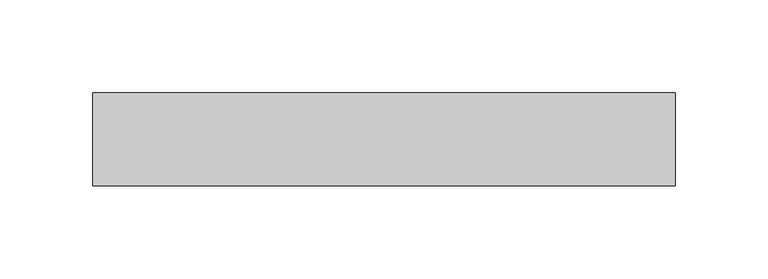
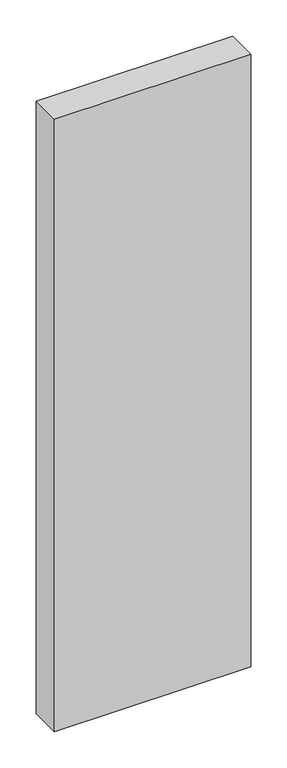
"""IFC4 building model written with IfcOpenShell, lengths in millimetres: plate geometry, Системная панель : Стекло(50мм)."""

import ifcopenshell
import ifcopenshell.guid

model = None  # the IFC model being written
_history = None  # IfcOwnerHistory: only IFC2X3 demands one
_inside = {}  # id of a spatial element -> (the spatial element, [elements in it])
_under = {}  # id of a project, library or spatial element -> (it, [spatial elements below it])
_declared = {}  # id of a project -> (the project, [libraries it declares])
_typed = {}  # id of a type object -> (the type object, [elements of that type])
_made_of = {}  # id of a material, layer set ... -> (it, [elements and type objects made of it])


def new_model(schema):
    """Start an empty IFC model of exactly this schema.

    Asked for "IFC4X3", IfcOpenShell would pick the latest addendum, in which some entities
    have other attributes; the version numbers below select the first issue.
    IFC2X3 requires an IfcOwnerHistory on every rooted entity: one is made here for all.
    """
    global model, _history
    if schema == "IFC4X3":
        model = ifcopenshell.file(schema_version=(4, 3, 0, 0))
    else:
        model = ifcopenshell.file(schema=schema)
    _inside.clear()
    _under.clear()
    _declared.clear()
    _typed.clear()
    _made_of.clear()
    _history = None
    if model.schema == "IFC2X3":
        org = make("IfcOrganization", Name="unknown")
        user = make(
            "IfcPersonAndOrganization",
            ThePerson=make("IfcPerson", FamilyName="unknown"),
            TheOrganization=org,
        )
        app = make(
            "IfcApplication",
            ApplicationDeveloper=org,
            Version="unknown",
            ApplicationFullName="unknown",
            ApplicationIdentifier="unknown",
        )
        _history = make(
            "IfcOwnerHistory",
            OwningUser=user,
            OwningApplication=app,
            ChangeAction="ADDED",
            CreationDate=0,
        )
    return model


def make(cls, **values):
    """One entity of the class cls with the attributes given. An attribute that is None is left unset."""
    return model.create_entity(
        cls, **{name: value for name, value in values.items() if value is not None}
    )


def rooted(cls, **values):
    """An entity with a GlobalId (a new one), such as an element, a storey or a relation."""
    return make(cls, GlobalId=ifcopenshell.guid.new(), OwnerHistory=_history, **values)


def si_unit(unit_type, name, prefix=None):
    """IfcSIUnit, for example si_unit("LENGTHUNIT", "METRE", prefix="MILLI")."""
    return make("IfcSIUnit", UnitType=unit_type, Prefix=prefix, Name=name)


def assignment(units):
    """IfcUnitAssignment: the units of a project."""
    return None if units is None else make("IfcUnitAssignment", Units=units)


def point(xyz):
    """IfcCartesianPoint."""
    return None if xyz is None else make("IfcCartesianPoint", Coordinates=xyz)


def direction(xyz):
    """IfcDirection."""
    return None if xyz is None else make("IfcDirection", DirectionRatios=xyz)


def frame(location, z_axis=None, x_axis=None):
    """IfcAxis2Placement3D, a coordinate frame: its origin and axes. An axis left out is left unset."""
    return make(
        "IfcAxis2Placement3D",
        Location=point(location),
        Axis=direction(z_axis),
        RefDirection=direction(x_axis),
    )


def origin():
    """The frame at (0, 0, 0) with its axes left unset."""
    return frame((0.0, 0.0, 0.0))


def origin_with_axes():
    """The frame at (0, 0, 0) with the z axis (0, 0, 1) and the x axis (1, 0, 0) written out."""
    return frame((0.0, 0.0, 0.0), z_axis=(0.0, 0.0, 1.0), x_axis=(1.0, 0.0, 0.0))


def place(relative_to, where):
    """IfcLocalPlacement: puts the frame where relative to a parent placement (None: the world)."""
    return make(
        "IfcLocalPlacement", PlacementRelTo=relative_to, RelativePlacement=where
    )


def context(
    kind, dimensions, precision=None, world=None, true_north=None, identifier=None
):
    """IfcGeometricRepresentationContext, for example the 3D "Model" context."""
    return make(
        "IfcGeometricRepresentationContext",
        ContextIdentifier=identifier,
        ContextType=kind,
        CoordinateSpaceDimension=dimensions,
        Precision=precision,
        WorldCoordinateSystem=world,
        TrueNorth=true_north,
    )


def project(units=None, contexts=None):
    """IfcProject with its units and contexts."""
    return rooted(
        "IfcProject",
        Name="project",
        RepresentationContexts=contexts,
        UnitsInContext=assignment(units),
    )


def spatial(cls, under=None, at=None, **own):
    """A site, building, storey or space (cls), placed at a placement, below another one or the project."""
    s = rooted(cls, ObjectPlacement=at, **own)
    if under is not None:
        _under.setdefault(under.id(), (under, []))[1].append(s)
    return s


def polyline(points):
    """IfcPolyline through the points."""
    return make("IfcPolyline", Points=[point(p) for p in points])


def outline(outer, holes=None, kind="AREA"):
    """IfcArbitraryClosedProfileDef: a profile drawn as a closed curve; with holes, ...WithVoids."""
    if holes is None:
        return make("IfcArbitraryClosedProfileDef", ProfileType=kind, OuterCurve=outer)
    return make(
        "IfcArbitraryProfileDefWithVoids",
        ProfileType=kind,
        OuterCurve=outer,
        InnerCurves=holes,
    )


def extrude(swept, where, along, depth):
    """IfcExtrudedAreaSolid: the profile swept, set in the frame where, extruded along a direction by depth."""
    return make(
        "IfcExtrudedAreaSolid",
        SweptArea=swept,
        Position=where,
        ExtrudedDirection=direction(along),
        Depth=depth,
    )


def shape(context_of_items, identifier, shape_type, items):
    """IfcShapeRepresentation: the items that make up one representation, for example the "Body"."""
    return make(
        "IfcShapeRepresentation",
        ContextOfItems=context_of_items,
        RepresentationIdentifier=identifier,
        RepresentationType=shape_type,
        Items=items,
    )


def source(mapping_origin, context_of_items, identifier, shape_type, items):
    """IfcRepresentationMap: a shape defined once, which mapped items show again and again."""
    return make(
        "IfcRepresentationMap",
        MappingOrigin=mapping_origin,
        MappedRepresentation=shape(context_of_items, identifier, shape_type, items),
    )


def transform(
    local_origin,
    x_axis=None,
    y_axis=None,
    z_axis=None,
    scale=None,
    scale2=None,
    scale3=None,
    uniform=True,
):
    """IfcCartesianTransformationOperator3D, or its non-uniform kind. x_axis, y_axis, z_axis: its Axis1, 2, 3."""
    if uniform:
        return make(
            "IfcCartesianTransformationOperator3D",
            Axis1=direction(x_axis),
            Axis2=direction(y_axis),
            LocalOrigin=point(local_origin),
            Scale=scale,
            Axis3=direction(z_axis),
        )
    return make(
        "IfcCartesianTransformationOperator3DnonUniform",
        Axis1=direction(x_axis),
        Axis2=direction(y_axis),
        LocalOrigin=point(local_origin),
        Scale=scale,
        Axis3=direction(z_axis),
        Scale2=scale2,
        Scale3=scale3,
    )


def mapped(mapping_source, mapping_target):
    """IfcMappedItem: shows the shape of a source again, moved by a transform."""
    return make(
        "IfcMappedItem", MappingSource=mapping_source, MappingTarget=mapping_target
    )


def made_of(thing, what):
    """Note that an element or type object is made of a material, layer set ...; save() writes the relation."""
    if what is not None:
        _made_of.setdefault(what.id(), (what, []))[1].append(thing)
    return thing


def element(
    cls,
    number,
    at=None,
    inside=None,
    cuts=None,
    type_object=None,
    material=None,
    context=None,
    identifier="Body",
    shape_type=None,
    held_by="IfcProductDefinitionShape",
    body=None,
    shapes=None,
    **own,
):
    """One element of the class cls, such as IfcWall. Its Tag is "e" and its number.

    at: its placement. inside: the storey or other place that contains it. cuts: it is an
    opening in that element (IfcRelVoidsElement). A single representation is given by context,
    identifier, shape_type and body (its items); several are given by shapes. held_by: the class
    of the entity that holds the representations. save() writes the other relations.
    """
    e = rooted(cls, Tag="e%d" % number, ObjectPlacement=at, **own)
    if body is not None:
        shapes = [shape(context, identifier, shape_type, body)]
    if shapes is not None:
        e.Representation = make(held_by, Representations=shapes)
    if inside is not None:
        _inside.setdefault(inside.id(), (inside, []))[1].append(e)
    if cuts is not None:
        rooted(
            "IfcRelVoidsElement", RelatingBuildingElement=cuts, RelatedOpeningElement=e
        )
    if type_object is not None:
        _typed.setdefault(type_object.id(), (type_object, []))[1].append(e)
    return made_of(e, material)


def aggregate(whole, parts):
    """IfcRelAggregates: a whole, such as a stair, and the parts it consists of."""
    return rooted("IfcRelAggregates", RelatingObject=whole, RelatedObjects=parts)


def save(model, path):
    """Write the relations noted so far, then the file.

    IfcRelAggregates (storeys below a building ...), IfcRelContainedInSpatialStructure (elements
    in a storey), IfcRelDefinesByType, IfcRelAssociatesMaterial and IfcRelDeclares: one each for
    every whole, place, type object, material and project.
    """
    for whole, parts in _under.values():
        aggregate(whole, parts)
    for where, things in _inside.values():
        rooted(
            "IfcRelContainedInSpatialStructure",
            RelatedElements=things,
            RelatingStructure=where,
        )
    for kind, things in _typed.values():
        rooted("IfcRelDefinesByType", RelatedObjects=things, RelatingType=kind)
    for what, things in _made_of.values():
        rooted("IfcRelAssociatesMaterial", RelatedObjects=things, RelatingMaterial=what)
    for by, libraries in _declared.values():
        rooted("IfcRelDeclares", RelatingContext=by, RelatedDefinitions=libraries)
    model.write(path)


def plate_a4859771(model_context):
    return source(origin(), model_context, "Body", "SweptSolid", [
        extrude(outline(polyline([(157.0038035, -25.0), (-157.0038035, -25.0), (-157.0038035, 25.0), (157.0038035, 25.0), (157.0038035, -25.0)])), origin_with_axes(), (0.0, 0.0, 1.0), 1035.0),
    ])


if __name__ == "__main__":
    model = new_model("IFC4")
    model_context = context("Model", 3, world=origin())
    ifc_project = project(units=[si_unit("LENGTHUNIT", "METRE", prefix="MILLI")], contexts=[model_context])
    site = spatial("IfcSite", under=ifc_project)
    building = spatial("IfcBuilding", under=site)
    placement = place(None, origin())
    plate_shape = plate_a4859771(model_context)
    element("IfcPlate", 1, ObjectType="Системная панель : Стекло(50мм)", at=placement, inside=building, context=model_context, shape_type="MappedRepresentation", body=[
        mapped(plate_shape, transform((0.0, 0.0, 0.0), x_axis=(1.0, 0.0, 0.0), y_axis=(0.0, 1.0, 0.0), z_axis=(0.0, 0.0, 1.0))),
    ])
    save(model, "model.ifc")
